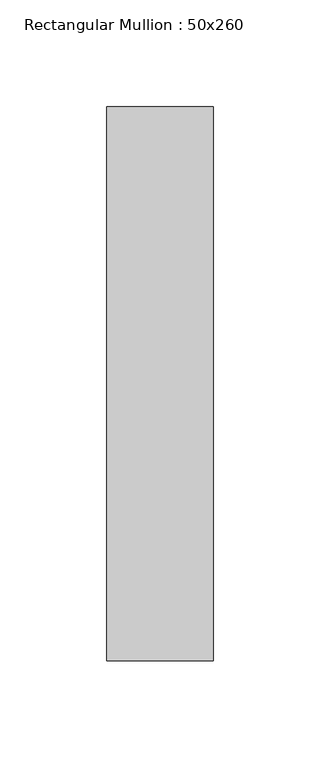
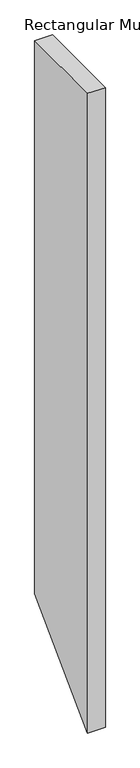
"""IFC4 building model written with IfcOpenShell, lengths in millimetres: member geometry, Rectangular Mullion : 50x260."""

import ifcopenshell
import ifcopenshell.guid

model = None  # the IFC model being written
_history = None  # IfcOwnerHistory: only IFC2X3 demands one
_inside = {}  # id of a spatial element -> (the spatial element, [elements in it])
_under = {}  # id of a project, library or spatial element -> (it, [spatial elements below it])
_declared = {}  # id of a project -> (the project, [libraries it declares])
_typed = {}  # id of a type object -> (the type object, [elements of that type])
_made_of = {}  # id of a material, layer set ... -> (it, [elements and type objects made of it])


def new_model(schema):
    """Start an empty IFC model of exactly this schema.

    Asked for "IFC4X3", IfcOpenShell would pick the latest addendum, in which some entities
    have other attributes; the version numbers below select the first issue.
    IFC2X3 requires an IfcOwnerHistory on every rooted entity: one is made here for all.
    """
    global model, _history
    if schema == "IFC4X3":
        model = ifcopenshell.file(schema_version=(4, 3, 0, 0))
    else:
        model = ifcopenshell.file(schema=schema)
    _inside.clear()
    _under.clear()
    _declared.clear()
    _typed.clear()
    _made_of.clear()
    _history = None
    if model.schema == "IFC2X3":
        org = make("IfcOrganization", Name="unknown")
        user = make(
            "IfcPersonAndOrganization",
            ThePerson=make("IfcPerson", FamilyName="unknown"),
            TheOrganization=org,
        )
        app = make(
            "IfcApplication",
            ApplicationDeveloper=org,
            Version="unknown",
            ApplicationFullName="unknown",
            ApplicationIdentifier="unknown",
        )
        _history = make(
            "IfcOwnerHistory",
            OwningUser=user,
            OwningApplication=app,
            ChangeAction="ADDED",
            CreationDate=0,
        )
    return model


def make(cls, **values):
    """One entity of the class cls with the attributes given. An attribute that is None is left unset."""
    return model.create_entity(
        cls, **{name: value for name, value in values.items() if value is not None}
    )


def rooted(cls, **values):
    """An entity with a GlobalId (a new one), such as an element, a storey or a relation."""
    return make(cls, GlobalId=ifcopenshell.guid.new(), OwnerHistory=_history, **values)


def si_unit(unit_type, name, prefix=None):
    """IfcSIUnit, for example si_unit("LENGTHUNIT", "METRE", prefix="MILLI")."""
    return make("IfcSIUnit", UnitType=unit_type, Prefix=prefix, Name=name)


def assignment(units):
    """IfcUnitAssignment: the units of a project."""
    return None if units is None else make("IfcUnitAssignment", Units=units)


def point(xyz):
    """IfcCartesianPoint."""
    return None if xyz is None else make("IfcCartesianPoint", Coordinates=xyz)


def direction(xyz):
    """IfcDirection."""
    return None if xyz is None else make("IfcDirection", DirectionRatios=xyz)


def frame(location, z_axis=None, x_axis=None):
    """IfcAxis2Placement3D, a coordinate frame: its origin and axes. An axis left out is left unset."""
    return make(
        "IfcAxis2Placement3D",
        Location=point(location),
        Axis=direction(z_axis),
        RefDirection=direction(x_axis),
    )


def origin():
    """The frame at (0, 0, 0) with its axes left unset."""
    return frame((0.0, 0.0, 0.0))


def place(relative_to, where):
    """IfcLocalPlacement: puts the frame where relative to a parent placement (None: the world)."""
    return make(
        "IfcLocalPlacement", PlacementRelTo=relative_to, RelativePlacement=where
    )


def context(
    kind, dimensions, precision=None, world=None, true_north=None, identifier=None
):
    """IfcGeometricRepresentationContext, for example the 3D "Model" context."""
    return make(
        "IfcGeometricRepresentationContext",
        ContextIdentifier=identifier,
        ContextType=kind,
        CoordinateSpaceDimension=dimensions,
        Precision=precision,
        WorldCoordinateSystem=world,
        TrueNorth=true_north,
    )


def project(units=None, contexts=None):
    """IfcProject with its units and contexts."""
    return rooted(
        "IfcProject",
        Name="project",
        RepresentationContexts=contexts,
        UnitsInContext=assignment(units),
    )


def spatial(cls, under=None, at=None, **own):
    """A site, building, storey or space (cls), placed at a placement, below another one or the project."""
    s = rooted(cls, ObjectPlacement=at, **own)
    if under is not None:
        _under.setdefault(under.id(), (under, []))[1].append(s)
    return s


def polyline(points):
    """IfcPolyline through the points."""
    return make("IfcPolyline", Points=[point(p) for p in points])


def outline(outer, holes=None, kind="AREA"):
    """IfcArbitraryClosedProfileDef: a profile drawn as a closed curve; with holes, ...WithVoids."""
    if holes is None:
        return make("IfcArbitraryClosedProfileDef", ProfileType=kind, OuterCurve=outer)
    return make(
        "IfcArbitraryProfileDefWithVoids",
        ProfileType=kind,
        OuterCurve=outer,
        InnerCurves=holes,
    )


def extrude(swept, where, along, depth):
    """IfcExtrudedAreaSolid: the profile swept, set in the frame where, extruded along a direction by depth."""
    return make(
        "IfcExtrudedAreaSolid",
        SweptArea=swept,
        Position=where,
        ExtrudedDirection=direction(along),
        Depth=depth,
    )


def shape(context_of_items, identifier, shape_type, items):
    """IfcShapeRepresentation: the items that make up one representation, for example the "Body"."""
    return make(
        "IfcShapeRepresentation",
        ContextOfItems=context_of_items,
        RepresentationIdentifier=identifier,
        RepresentationType=shape_type,
        Items=items,
    )


def source(mapping_origin, context_of_items, identifier, shape_type, items):
    """IfcRepresentationMap: a shape defined once, which mapped items show again and again."""
    return make(
        "IfcRepresentationMap",
        MappingOrigin=mapping_origin,
        MappedRepresentation=shape(context_of_items, identifier, shape_type, items),
    )


def transform(
    local_origin,
    x_axis=None,
    y_axis=None,
    z_axis=None,
    scale=None,
    scale2=None,
    scale3=None,
    uniform=True,
):
    """IfcCartesianTransformationOperator3D, or its non-uniform kind. x_axis, y_axis, z_axis: its Axis1, 2, 3."""
    if uniform:
        return make(
            "IfcCartesianTransformationOperator3D",
            Axis1=direction(x_axis),
            Axis2=direction(y_axis),
            LocalOrigin=point(local_origin),
            Scale=scale,
            Axis3=direction(z_axis),
        )
    return make(
        "IfcCartesianTransformationOperator3DnonUniform",
        Axis1=direction(x_axis),
        Axis2=direction(y_axis),
        LocalOrigin=point(local_origin),
        Scale=scale,
        Axis3=direction(z_axis),
        Scale2=scale2,
        Scale3=scale3,
    )


def mapped(mapping_source, mapping_target):
    """IfcMappedItem: shows the shape of a source again, moved by a transform."""
    return make(
        "IfcMappedItem", MappingSource=mapping_source, MappingTarget=mapping_target
    )


def made_of(thing, what):
    """Note that an element or type object is made of a material, layer set ...; save() writes the relation."""
    if what is not None:
        _made_of.setdefault(what.id(), (what, []))[1].append(thing)
    return thing


def element(
    cls,
    number,
    at=None,
    inside=None,
    cuts=None,
    type_object=None,
    material=None,
    context=None,
    identifier="Body",
    shape_type=None,
    held_by="IfcProductDefinitionShape",
    body=None,
    shapes=None,
    **own,
):
    """One element of the class cls, such as IfcWall. Its Tag is "e" and its number.

    at: its placement. inside: the storey or other place that contains it. cuts: it is an
    opening in that element (IfcRelVoidsElement). A single representation is given by context,
    identifier, shape_type and body (its items); several are given by shapes. held_by: the class
    of the entity that holds the representations. save() writes the other relations.
    """
    e = rooted(cls, Tag="e%d" % number, ObjectPlacement=at, **own)
    if body is not None:
        shapes = [shape(context, identifier, shape_type, body)]
    if shapes is not None:
        e.Representation = make(held_by, Representations=shapes)
    if inside is not None:
        _inside.setdefault(inside.id(), (inside, []))[1].append(e)
    if cuts is not None:
        rooted(
            "IfcRelVoidsElement", RelatingBuildingElement=cuts, RelatedOpeningElement=e
        )
    if type_object is not None:
        _typed.setdefault(type_object.id(), (type_object, []))[1].append(e)
    return made_of(e, material)


def aggregate(whole, parts):
    """IfcRelAggregates: a whole, such as a stair, and the parts it consists of."""
    return rooted("IfcRelAggregates", RelatingObject=whole, RelatedObjects=parts)


def save(model, path):
    """Write the relations noted so far, then the file.

    IfcRelAggregates (storeys below a building ...), IfcRelContainedInSpatialStructure (elements
    in a storey), IfcRelDefinesByType, IfcRelAssociatesMaterial and IfcRelDeclares: one each for
    every whole, place, type object, material and project.
    """
    for whole, parts in _under.values():
        aggregate(whole, parts)
    for where, things in _inside.values():
        rooted(
            "IfcRelContainedInSpatialStructure",
            RelatedElements=things,
            RelatingStructure=where,
        )
    for kind, things in _typed.values():
        rooted("IfcRelDefinesByType", RelatedObjects=things, RelatingType=kind)
    for what, things in _made_of.values():
        rooted("IfcRelAssociatesMaterial", RelatedObjects=things, RelatingMaterial=what)
    for by, libraries in _declared.values():
        rooted("IfcRelDeclares", RelatingContext=by, RelatedDefinitions=libraries)
    model.write(path)


def rectangular_mullion_50x260_4219267b(model_context):
    return source(origin(), model_context, "Body", "SweptSolid", [
        extrude(outline(polyline([(-130.0, 0.0), (130.0, 0.0), (130.0, -1655.8088066), (-130.0, -1915.8088066), (-130.0, 0.0)])), frame((-50.0, 0.0, 0.0), z_axis=(1.0, 0.0, 0.0), x_axis=(0.0, 1.0, 0.0)), (0.0, 0.0, 1.0), 50.0),
    ])


if __name__ == "__main__":
    model = new_model("IFC4")
    model_context = context("Model", 3, world=origin())
    ifc_project = project(units=[si_unit("LENGTHUNIT", "METRE", prefix="MILLI")], contexts=[model_context])
    site = spatial("IfcSite", under=ifc_project)
    building = spatial("IfcBuilding", under=site)
    placement = place(None, origin())
    rectangular_mullion_50x260_shape = rectangular_mullion_50x260_4219267b(model_context)
    element("IfcMember", 1, ObjectType="Rectangular Mullion : 50x260", at=placement, inside=building, context=model_context, shape_type="MappedRepresentation", body=[
        mapped(rectangular_mullion_50x260_shape, transform((0.0, 0.0, 0.0), x_axis=(1.0, 0.0, 0.0), y_axis=(0.0, 1.0, 0.0), z_axis=(0.0, 0.0, 1.0))),
    ])
    save(model, "model.ifc")
